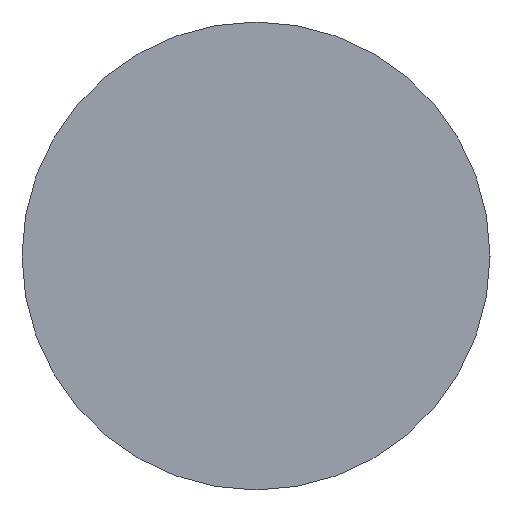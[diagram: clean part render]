
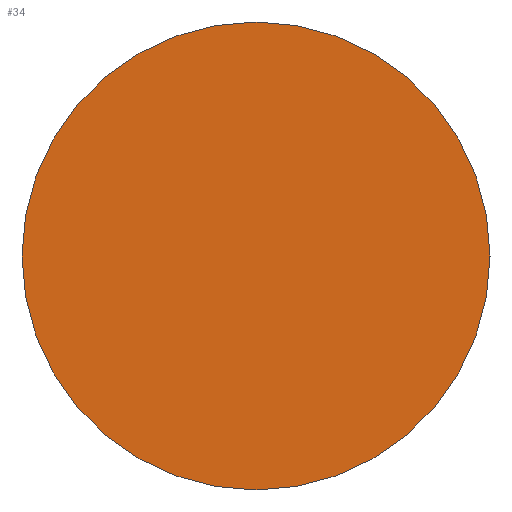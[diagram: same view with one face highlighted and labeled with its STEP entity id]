
A CAD part, left-side view. The second image highlights one B-rep face of the part: STEP entity #34.
In plain terms, the highlighted planar face has unit normal (-1, 0, 0).
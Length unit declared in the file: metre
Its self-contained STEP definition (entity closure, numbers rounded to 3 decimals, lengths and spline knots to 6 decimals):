
#12=PLANE('',#52);
#16=ORIENTED_EDGE('',*,*,#18,.T.);
#18=EDGE_CURVE('',#20,#20,#22,.T.);
#20=VERTEX_POINT('',#69);
#22=CIRCLE('',#50,0.0015);
#26=EDGE_LOOP('',(#16));
#30=FACE_BOUND('',#26,.T.);
#34=ADVANCED_FACE('',(#30),#12,.T.);
#50=AXIS2_PLACEMENT_3D('',#68,#58,#59);
#52=AXIS2_PLACEMENT_3D('',#72,#62,#63);
#58=DIRECTION('',(-1.,0.,0.));
#59=DIRECTION('',(0.,-1.,0.));
#62=DIRECTION('',(-1.,0.,0.));
#63=DIRECTION('',(0.,-1.,0.));
#68=CARTESIAN_POINT('',(-0.101828,-0.007167,-0.028272));
#69=CARTESIAN_POINT('',(-0.101828,-0.008667,-0.028272));
#72=CARTESIAN_POINT('',(-0.101828,-0.00777,-0.033999));
